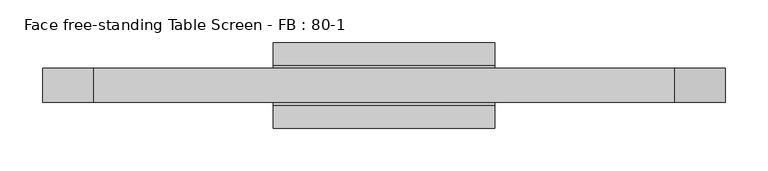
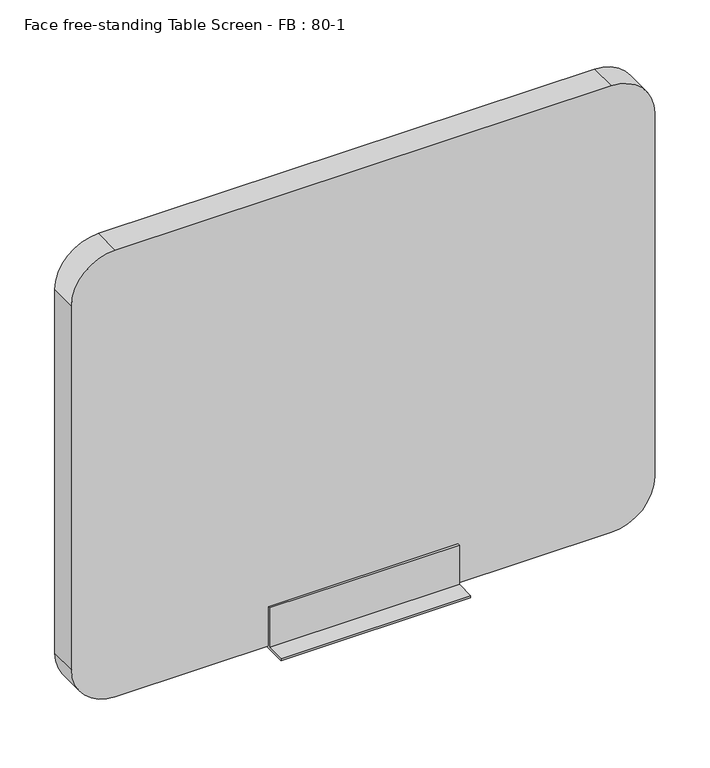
"""IFC4 building model written with IfcOpenShell, lengths in millimetres: furniture geometry, Face free-standing Table Screen - FB : 80-1."""

from ifc_helpers import new_model, si_unit, point, frame, frame_2d, origin, place, context, project, spatial, polyline, circle_curve, trimmed, segment, composite_curve, outline, extrude, source, transform, mapped, element, save


def face_free_standing_table_screen_fb_80_1_d223b82d(model_context):
    return source(origin(), model_context, "Body", "SweptSolid", [
        extrude(outline(polyline([(-50.0, 3.0), (-22.999995, 3.0), (-23.0, 60.0), (-20.0, 60.0), (-20.0, 3.0), (20.0, 3.0), (20.0, 60.0), (23.0, 60.0), (22.999995, 3.0), (50.0, 3.0), (50.0, 0.0), (-50.0, 0.0), (-50.0, 3.0)])), frame((-130.0, 0.0, 0.0), z_axis=(1.0, 0.0, 0.0), x_axis=(0.0, 1.0, 0.0)), (0.0, 0.0, 1.0), 260.0),
        extrude(outline(composite_curve([segment(polyline([(650.0, 340.0), (650.0, -340.0)]), True, "CONTINUOUS"), segment(trimmed(circle_curve(frame_2d((590.0, -340.0)), 60.0), [point((650.0, -340.0))], [point((590.0, -400.0))], False, "CARTESIAN"), True, "CONTINUOUS"), segment(polyline([(590.0, -400.0), (63.0, -400.0)]), True, "CONTINUOUS"), segment(trimmed(circle_curve(frame_2d((63.0, -340.0)), 60.0), [point((63.0, -400.0))], [point((3.0, -340.0))], False, "CARTESIAN"), True, "CONTINUOUS"), segment(polyline([(3.0, -340.0), (3.0, 340.0)]), True, "CONTINUOUS"), segment(trimmed(circle_curve(frame_2d((63.0, 340.0)), 60.0), [point((3.0, 340.0))], [point((63.0, 400.0))], False, "CARTESIAN"), True, "CONTINUOUS"), segment(polyline([(63.0, 400.0), (590.0, 400.0)]), True, "CONTINUOUS"), segment(trimmed(circle_curve(frame_2d((590.0, 340.0)), 60.0), [point((590.0, 400.0))], [point((650.0, 340.0))], False, "CARTESIAN"), True, "CONTINUOUS")], self_intersect=False)), frame((0.0, -20.0, 0.0), z_axis=(0.0, 1.0, 0.0), x_axis=(0.0, 0.0, 1.0)), (0.0, 0.0, 1.0), 40.0),
    ])


if __name__ == "__main__":
    model = new_model("IFC4")
    model_context = context("Model", 3, world=origin())
    ifc_project = project(units=[si_unit("LENGTHUNIT", "METRE", prefix="MILLI")], contexts=[model_context])
    site = spatial("IfcSite", under=ifc_project)
    building = spatial("IfcBuilding", under=site)
    placement = place(None, origin())
    face_free_standing_table_screen_fb_80_1_shape = face_free_standing_table_screen_fb_80_1_d223b82d(model_context)
    element("IfcFurniture", 1, ObjectType="Face free-standing Table Screen - FB : 80-1", at=placement, inside=building, context=model_context, shape_type="MappedRepresentation", body=[
        mapped(face_free_standing_table_screen_fb_80_1_shape, transform((0.0, 0.0, 0.0), x_axis=(1.0, 0.0, 0.0), y_axis=(0.0, 1.0, 0.0), z_axis=(0.0, 0.0, 1.0))),
    ])
    save(model, "model.ifc")
